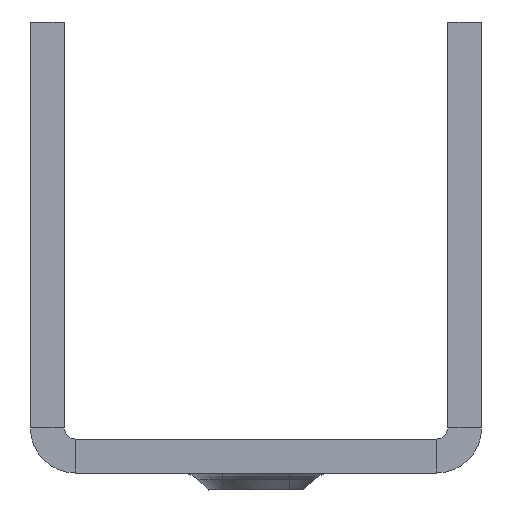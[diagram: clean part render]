
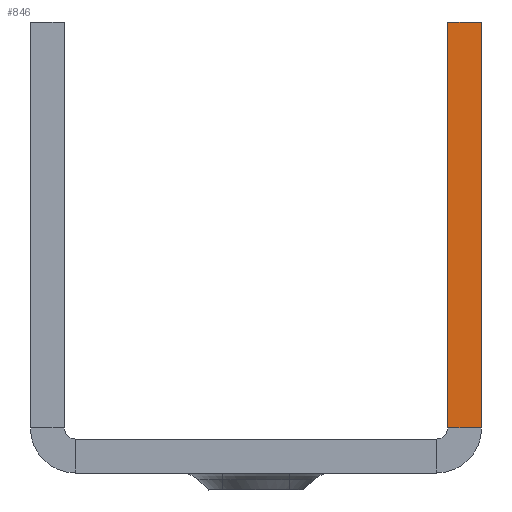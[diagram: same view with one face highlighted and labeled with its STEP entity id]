
A CAD part, front view. The second image highlights one B-rep face of the part: STEP entity #846.
In plain terms, the highlighted planar face has unit normal (0, -1, 0).
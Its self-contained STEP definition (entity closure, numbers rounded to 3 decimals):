
#148=FACE_OUTER_BOUND('',#211,.T.);
#211=EDGE_LOOP('',(#719,#720,#721,#722));
#265=LINE('',#1470,#325);
#267=LINE('',#1473,#327);
#270=LINE('',#1481,#330);
#271=LINE('',#1482,#331);
#325=VECTOR('',#1208,2.32);
#327=VECTOR('',#1212,10.);
#330=VECTOR('',#1223,10.);
#331=VECTOR('',#1224,10.);
#407=VERTEX_POINT('',#1453);
#412=VERTEX_POINT('',#1467);
#413=VERTEX_POINT('',#1469);
#414=VERTEX_POINT('',#1480);
#515=EDGE_CURVE('',#413,#412,#265,.T.);
#517=EDGE_CURVE('',#412,#407,#267,.T.);
#522=EDGE_CURVE('',#407,#414,#270,.T.);
#523=EDGE_CURVE('',#413,#414,#271,.T.);
#719=ORIENTED_EDGE('',*,*,#517,.T.);
#720=ORIENTED_EDGE('',*,*,#522,.T.);
#721=ORIENTED_EDGE('',*,*,#523,.F.);
#722=ORIENTED_EDGE('',*,*,#515,.T.);
#798=PLANE('',#973);
#846=ADVANCED_FACE('',(#148),#798,.T.);
#973=AXIS2_PLACEMENT_3D('',#1479,#1221,#1222);
#1208=DIRECTION('',(0.,0.,-1.));
#1212=DIRECTION('',(1.,0.,0.));
#1221=DIRECTION('center_axis',(0.,-1.,0.));
#1222=DIRECTION('ref_axis',(1.,0.,0.));
#1223=DIRECTION('',(0.,0.,1.));
#1224=DIRECTION('',(1.,0.,0.));
#1453=CARTESIAN_POINT('',(20.,-2000.,4.));
#1467=CARTESIAN_POINT('',(17.,-2000.,4.));
#1469=CARTESIAN_POINT('',(17.,-2000.,40.));
#1470=CARTESIAN_POINT('',(17.,-2000.,-3.288));
#1473=CARTESIAN_POINT('',(17.66,-2000.,4.));
#1479=CARTESIAN_POINT('Origin',(17.,-2000.,4.));
#1480=CARTESIAN_POINT('',(20.,-2000.,40.));
#1481=CARTESIAN_POINT('',(20.,-2000.,4.));
#1482=CARTESIAN_POINT('',(17.,-2000.,40.));
